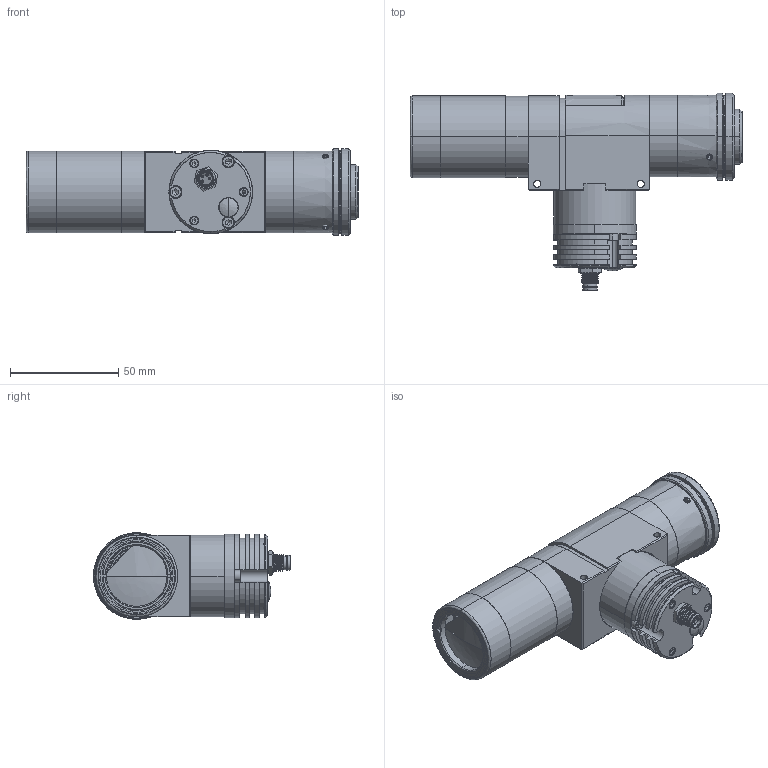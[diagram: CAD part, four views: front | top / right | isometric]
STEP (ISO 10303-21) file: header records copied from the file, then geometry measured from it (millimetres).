
FILE_DESCRIPTION(('LS-TCL-0393'),'2;1');
FILE_NAME('LS-TCL-0393.stp','2026-10-15T21:56:33',('LumaSpec Vision'),('LumaSpec Vision'),'LumaSpec Vision','LumaSpec Vision','');
FILE_SCHEMA(('AUTOMOTIVE_DESIGN { 1 0 10303 214 1 1 1 1 }'));
Length unit declared in the file: millimetre
Products named in the file (434): LumaSpec Vision
Assembly tree (433 placements, depth 2):
  LumaSpec Vision
    LumaSpec Vision
    LumaSpec Vision
    LumaSpec Vision
    LumaSpec Vision
    LumaSpec Vision
    LumaSpec Vision
    LumaSpec Vision
    LumaSpec Vision
    LumaSpec Vision
    LumaSpec Vision
    LumaSpec Vision
    LumaSpec Vision
    LumaSpec Vision
    LumaSpec Vision
    LumaSpec Vision
    LumaSpec Vision
    LumaSpec Vision
    LumaSpec Vision
    LumaSpec Vision
    LumaSpec Vision
    LumaSpec Vision
    LumaSpec Vision
    LumaSpec Vision
    LumaSpec Vision
    LumaSpec Vision
    LumaSpec Vision
    LumaSpec Vision
    LumaSpec Vision
    LumaSpec Vision
    LumaSpec Vision
    LumaSpec Vision
    LumaSpec Vision
    LumaSpec Vision
    LumaSpec Vision
    LumaSpec Vision
    LumaSpec Vision
    LumaSpec Vision
    LumaSpec Vision
    LumaSpec Vision
    LumaSpec Vision
    LumaSpec Vision
    LumaSpec Vision
    LumaSpec Vision
    LumaSpec Vision
    LumaSpec Vision
    LumaSpec Vision
    LumaSpec Vision
    LumaSpec Vision
    LumaSpec Vision
    LumaSpec Vision
    LumaSpec Vision
    LumaSpec Vision
    LumaSpec Vision
    LumaSpec Vision
    LumaSpec Vision
    LumaSpec Vision
    LumaSpec Vision
    LumaSpec Vision
    LumaSpec Vision
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Bounding box: 153.28 x 91.02 x 40 mm (x, y, z)
Surface area: 39651.2 mm2 (no closed solid volume)
Topology: 0 solids, 433 shells, 433 faces, 6689 edges, 6662 vertices
Faces by surface type: bspline 275, revolution 158
Entity records: 114394 total; most frequent: CARTESIAN_POINT 47261, B_SPLINE_CURVE_WITH_KNOTS 11875, ORIENTED_EDGE 6662, EDGE_CURVE 6662, VERTEX_POINT 6662, SURFACE_CURVE 6662, PCURVE 6662, DEFINITIONAL_REPRESENTATION 6662
